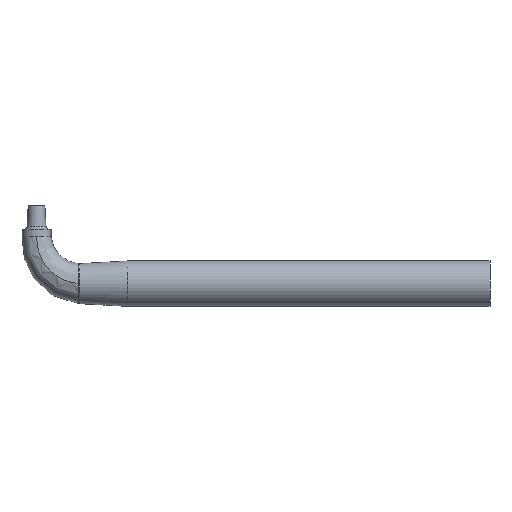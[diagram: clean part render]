
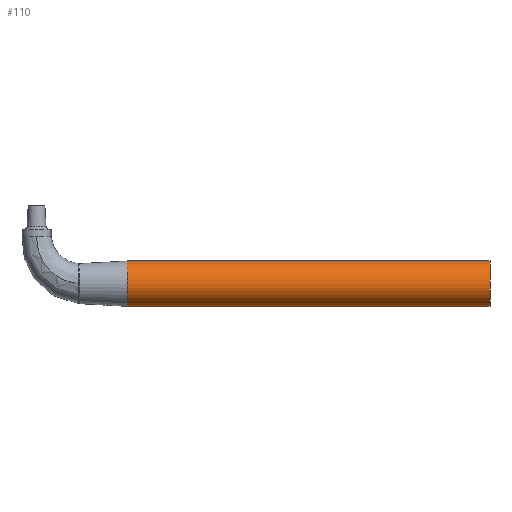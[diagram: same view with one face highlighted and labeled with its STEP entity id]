
A CAD part, top view. The second image highlights one B-rep face of the part: STEP entity #110.
In plain terms, the highlighted cylindrical face has radius 12.5 mm (diameter 25 mm), a partial arc.
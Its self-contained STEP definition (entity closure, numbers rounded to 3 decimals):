
#110=ADVANCED_FACE('',(#478),#477,.T.);
#477=CYLINDRICAL_SURFACE('',#1839,12.5);
#478=FACE_OUTER_BOUND('',#1840,.T.);
#1836=CARTESIAN_POINT('',(292.695,182.717,0.));
#1837=DIRECTION('',(-1.,0.,0.));
#1838=DIRECTION('',(0.,1.,0.));
#1839=AXIS2_PLACEMENT_3D('',#1836,#1837,#1838);
#1840=EDGE_LOOP('',(#2135,#2136,#2137,#2138));
#2135=ORIENTED_EDGE('',*,*,#2223,.T.);
#2136=ORIENTED_EDGE('',*,*,#2308,.T.);
#2137=ORIENTED_EDGE('',*,*,#2310,.T.);
#2138=ORIENTED_EDGE('',*,*,#2309,.F.);
#2223=EDGE_CURVE('',#2437,#2436,#2444,.T.);
#2308=EDGE_CURVE('',#2436,#3002,#3009,.T.);
#2309=EDGE_CURVE('',#2437,#3001,#3015,.T.);
#2310=EDGE_CURVE('',#3002,#3001,#3021,.T.);
#2436=VERTEX_POINT('',#3258);
#2437=VERTEX_POINT('',#3259);
#2444=CIRCLE('',#3267,12.5);
#3001=VERTEX_POINT('',#3781);
#3002=VERTEX_POINT('',#3782);
#3009=(BOUNDED_CURVE() B_SPLINE_CURVE(1,(#3787,#3788),.UNSPECIFIED.,.F.,.F.) B_SPLINE_CURVE_WITH_KNOTS((2,2),(0.045,0.955),.UNSPECIFIED.) CURVE() GEOMETRIC_REPRESENTATION_ITEM() RATIONAL_B_SPLINE_CURVE((1.,1.)) REPRESENTATION_ITEM('') );
#3015=(BOUNDED_CURVE() B_SPLINE_CURVE(1,(#3789,#3790),.UNSPECIFIED.,.F.,.F.) B_SPLINE_CURVE_WITH_KNOTS((2,2),(0.045,0.955),.UNSPECIFIED.) CURVE() GEOMETRIC_REPRESENTATION_ITEM() RATIONAL_B_SPLINE_CURVE((0.75,0.75)) REPRESENTATION_ITEM('') );
#3021=CIRCLE('',#3794,12.5);
#3258=CARTESIAN_POINT('',(492.695,195.217,0.));
#3259=CARTESIAN_POINT('',(492.695,170.217,0.));
#3264=CARTESIAN_POINT('',(492.695,182.717,0.));
#3265=DIRECTION('',(-1.,0.,0.));
#3266=DIRECTION('',(0.,-1.,0.));
#3267=AXIS2_PLACEMENT_3D('',#3264,#3265,#3266);
#3781=CARTESIAN_POINT('',(292.695,170.217,0.));
#3782=CARTESIAN_POINT('',(292.695,195.217,0.));
#3787=CARTESIAN_POINT('',(492.695,195.217,0.));
#3788=CARTESIAN_POINT('',(292.695,195.217,0.));
#3789=CARTESIAN_POINT('',(492.695,170.217,0.));
#3790=CARTESIAN_POINT('',(292.695,170.217,0.));
#3791=CARTESIAN_POINT('',(292.695,182.717,0.));
#3792=DIRECTION('',(1.,0.,0.));
#3793=DIRECTION('',(0.,-1.,0.));
#3794=AXIS2_PLACEMENT_3D('',#3791,#3792,#3793);
